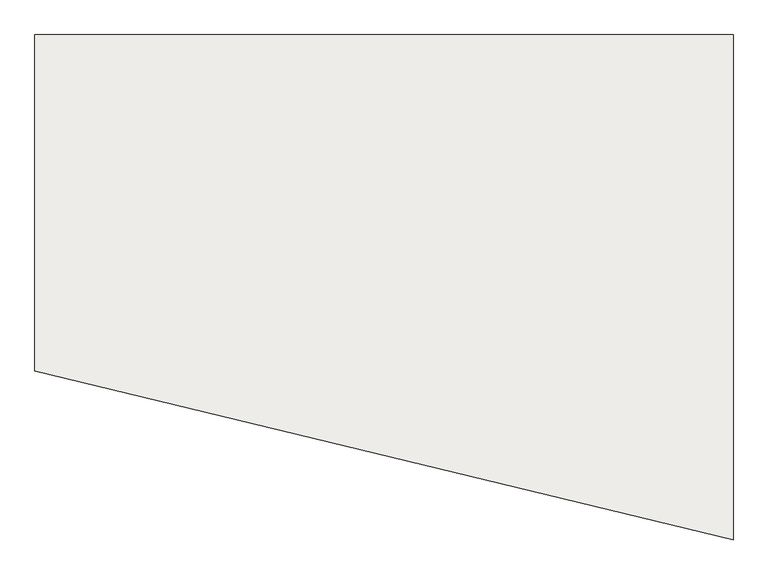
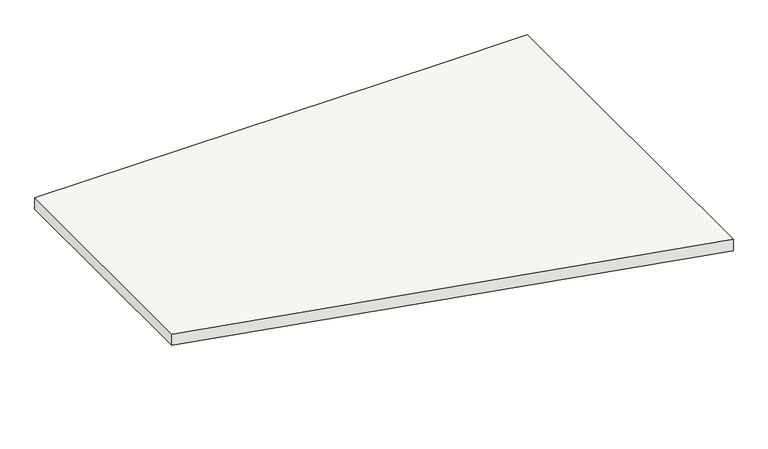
"""IFC4 building model written with IfcOpenShell, lengths in millimetres: slab geometry, Немонолитная площадка."""

from ifc_helpers import new_model, si_unit, frame, origin, place, context, project, spatial, polyline, outline, extrude, source, transform, mapped, element, save


def slab_bca46094(model_context):
    return source(origin(), model_context, "Body", "SweptSolid", [
        extrude(outline(polyline([(28739.0617086, 5580.1367173), (28959.0617086, 5580.1367173), (28959.0617086, 4690.3333696), (27729.9990554, 4987.6937015), (27729.9990554, 5580.1367173), (28739.0617086, 5580.1367173)])), frame((0.0, 0.0, 3520.0), z_axis=(0.0, 0.0, 1.0), x_axis=(1.0, 0.0, 0.0)), (0.0, 0.0, 1.0), 30.0),
    ])


if __name__ == "__main__":
    model = new_model("IFC4")
    model_context = context("Model", 3, world=origin())
    ifc_project = project(units=[si_unit("LENGTHUNIT", "METRE", prefix="MILLI")], contexts=[model_context])
    site = spatial("IfcSite", under=ifc_project)
    building = spatial("IfcBuilding", under=site)
    placement = place(None, origin())
    slab_shape = slab_bca46094(model_context)
    element("IfcSlab", 1, ObjectType="Немонолитная площадка", at=placement, inside=building, context=model_context, shape_type="MappedRepresentation", body=[
        mapped(slab_shape, transform((0.0, 0.0, 0.0), x_axis=(1.0, 0.0, 0.0), y_axis=(0.0, 1.0, 0.0), z_axis=(0.0, 0.0, 1.0))),
    ])
    save(model, "model.ifc")
